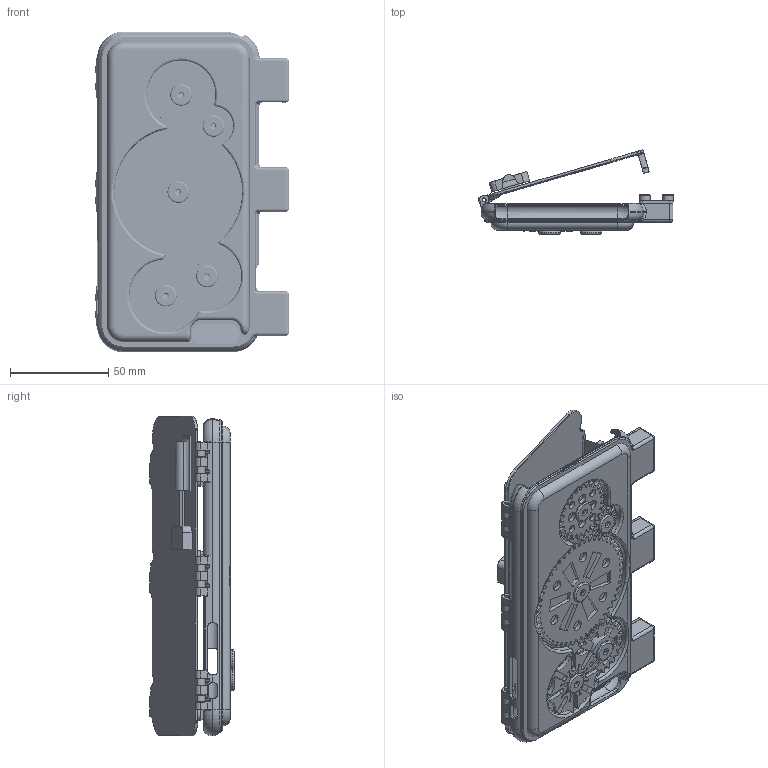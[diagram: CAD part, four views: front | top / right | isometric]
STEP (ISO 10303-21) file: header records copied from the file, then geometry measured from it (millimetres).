
FILE_DESCRIPTION(/* description */ (''),/* implementation_level */ '2;1');
FILE_NAME(/* name */ 'C:\Users\Clevo\Pictures\odp\case.stp',/* time_stamp */ '2017-08-22T21:50:24-04:00',/* author */ ('Clevo'),/* organization */ (''),/* preprocessor_version */ 'ST-DEVELOPER v16.1',/* originating_system */ 'Autodesk Inventor 2016',/* authorisation */ '');
FILE_SCHEMA (('AUTOMOTIVE_DESIGN { 1 0 10303 214 3 1 1 }'));
Products named in the file (18): case; flange; gear1geneva; gear 2; gear 3; gear 4; geneva; pinshort; pinmid; lockcover; lockcover2; pin; 91274A103_COATED ALLOY STEEL SOCKET HEAD CAP SCREW; cover; keyflange; keyholder; key; case_1
Assembly tree (31 placements, depth 2):
  case_1
    case
    flange
    gear1geneva
    gear 2
    gear 3
    gear 4
    geneva
    pinshort  x3
    pinmid  x2
    lockcover  x2
    lockcover2
    pin  x3
    91274A103_COATED ALLOY STEEL SOCKET HEAD CAP SCREW  x9
    cover
    keyflange
    keyholder
    key
Bounding box: 99.01 x 42.73 x 162.5 mm (x, y, z)
Volume: 83231.7 mm3; surface area: 97452.2 mm2
Topology: 31 solids, 31 shells, 2259 faces, 6119 edges, 3920 vertices
Faces by surface type: cylinder 1091, plane 530, bspline 368, torus 163, cone 87, sphere 20
Full cylindrical faces by diameter (mm): 1.9 x6, 2 x14, 2.459 x6, 2.5 x1, 2.887 x1, 3 x102, 3.075 x3, 3.1 x6, 3.5 x3, 4 x4, 5 x4, 5.317 x6, 5.5 x9, 6.5 x10, 6.65 x5, 10 x1, 11 x5
Entity records: 76335 total; most frequent: CARTESIAN_POINT 28777, ORIENTED_EDGE 10252, DIRECTION 9508, EDGE_CURVE 5126, AXIS2_PLACEMENT_3D 3699, VERTEX_POINT 3357, EDGE_LOOP 2111, LINE 2110
